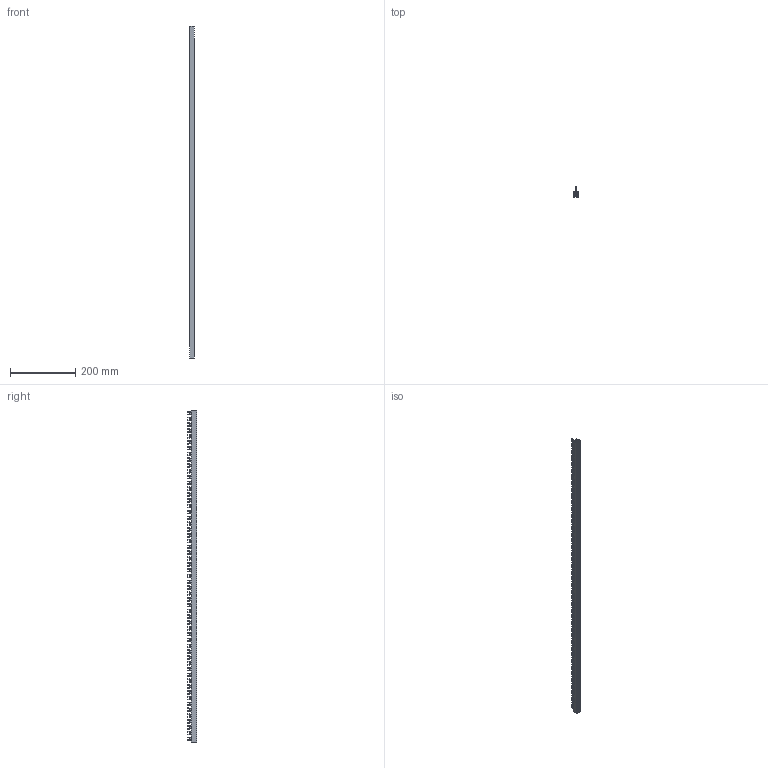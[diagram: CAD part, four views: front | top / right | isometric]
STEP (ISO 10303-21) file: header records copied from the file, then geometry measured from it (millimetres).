
FILE_DESCRIPTION (( 'STEP AP214' ), '1' );
FILE_NAME ('G3L-1000-16C.step', '2011-08-05T08:05:52', ( 'Radek Veselý' ), ( 'Siemens and Partners' ), 'SwSTEP 2.0', 'SolidWorks 2006303', '' );
FILE_SCHEMA (( 'AUTOMOTIVE_DESIGN' ));
Length unit declared in the file: millimetre
Products named in the file (1): G3L-1000-16C
Bounding box: 14.9 x 30 x 1016 mm (x, y, z)
Volume: 150035 mm3; surface area: 276934.5 mm2
Topology: 4 solids, 4 shells, 1427 faces, 3649 edges, 2230 vertices
Faces by surface type: cylinder 782, plane 645
Entity records: 57846 total; most frequent: CARTESIAN_POINT 8675, ORIENTED_EDGE 7298, DIRECTION 6701, EDGE_CURVE 3649, VECTOR 2541, LINE 2541, VERTEX_POINT 2230, AXIS2_PLACEMENT_3D 2080
